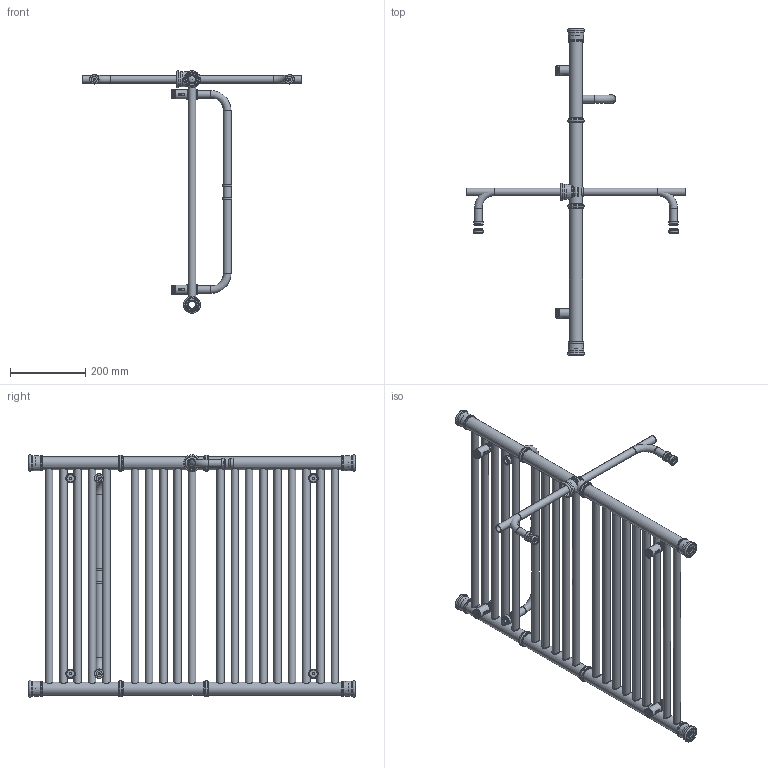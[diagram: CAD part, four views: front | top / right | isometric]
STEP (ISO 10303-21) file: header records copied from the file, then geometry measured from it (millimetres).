
FILE_DESCRIPTION( ( 'Unknown' ), '1' );
FILE_NAME( 'D:/Alplast sp. j/Witryna zespoBu - Projekty/Archiwum/Grzejniki Archiwum/Projekty/DESIGN PROGRAM/RETRO/Retro A3-600.stp', 'Unknown', ( 'Unknown' ), ( 'Unknown' ), 'PSStep 10.1', 'Unknown', ' ' );
FILE_SCHEMA( ( 'AUTOMOTIVE_DESIGN { 1 0 10303 214 1 1 1 1 }' ) );
Length unit declared in the file: millimetre
Products named in the file (50): mocowanie do œciany; Assem1; katurek z wkrêtem do mocowania do  sciany; suszarka Retro 600; Katurek fi 25 v4 ; wkrêt do katurka fi 25 v4; detal-v3. par; element do suszarki do mocowania; element do suszarki do mocowania-oa28; tulejka do suszarki ; tulejka do suszarki -oa29; element do suszarki do mocowania ty³; element do suszarki do mocowania ty³-oa30; suszarka 600; tulejka do mocowania grzejnika v3; mocowanie do grzejnika v3; zaœlepka do mocowania do œciany; Zaslepka fi 35 z gwintem ; Zaslepka fi 35 z gwintem -oa0; Zaslepka fi 35 z gwintem -oa1; Zaslepka fi 35 z gwintem -oa2; Kana³ Prosty Retro 600; Kana³ Prosty Retro 600-oa3; Kana³ Prosty Retro 600-oa4; Kana³ Prosty Retro 600-oa5; Kana³ Prosty Retro 600-oa6; Kana³ Prosty Retro 600-oa7; Kana³ Prosty Retro 600-oa8; Kana³ Prosty Retro 600-oa9; Kana³ Prosty Retro 600-oa10; Kana³ Prosty Retro 600-oa11; Kana³ Prosty Retro 600-oa12; Kana³ Prosty Retro 600-oa13; Kana³ Prosty Retro 600-oa14; Kana³ Prosty Retro 600-oa15; Kana³ Prosty Retro 600-oa16; Kana³ Prosty Retro 600-oa17; Kana³ Prosty Retro 600-oa18; Kana³ Prosty Retro 600-oa19; Kana³ Prosty Retro 600-oa20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
Bounding box: 584 x 868 x 644.99 mm (x, y, z)
Volume: 2507302.3 mm3; surface area: 3803304.9 mm2
Topology: 122 solids, 122 shells, 1024 faces, 2068 edges, 1322 vertices
Faces by surface type: cylinder 418, plane 302, torus 201, cone 84, bspline 12, sphere 7
Full cylindrical faces by diameter (mm): 4.917 x24, 5.9 x6, 6 x27, 6.3 x6, 6.4 x6, 15.5 x6, 17.5 x6, 17.6 x47, 18.631 x8, 20 x47, 20.3 x3, 20.5 x76, 20.6 x6, 21.15 x6, 21.9 x18, 22.8 x3, 24.5 x6, 25 x21, 25.25 x6, 25.3 x6, 32 x8, 32.4 x4, 35 x12, 35.3 x8, 35.5 x8, 39 x16, 41.15 x16
Entity records: 19252 total; most frequent: CARTESIAN_POINT 8742, DIRECTION 1498, ORIENTED_EDGE 830, EDGE_LOOP 812, AXIS2_PLACEMENT_3D 745, FACE_OUTER_BOUND 601, EDGE_CURVE 415, VERTEX_POINT 412
